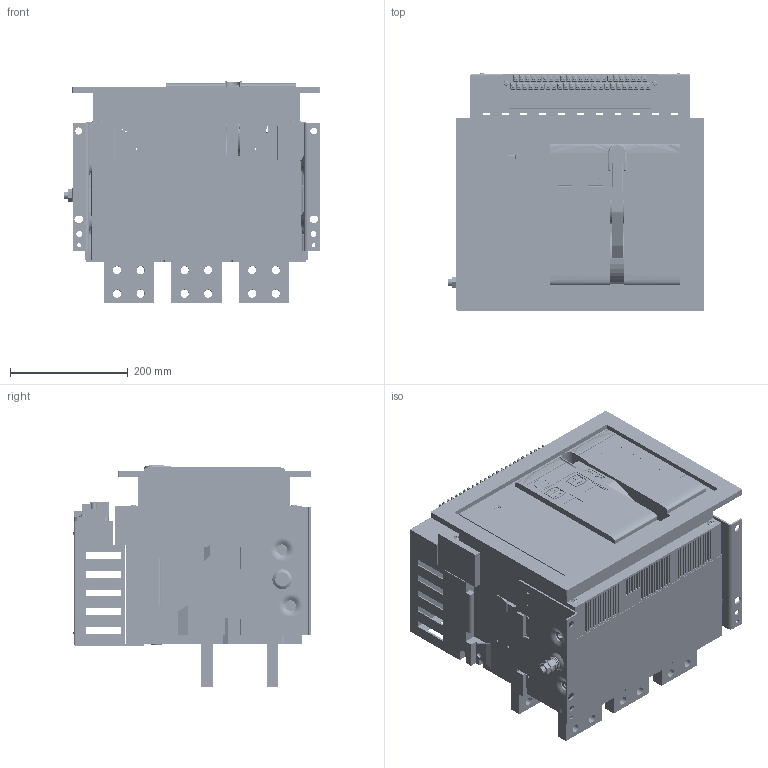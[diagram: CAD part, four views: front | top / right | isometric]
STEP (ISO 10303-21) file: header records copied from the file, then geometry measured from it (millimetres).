
FILE_DESCRIPTION (( 'STEP AP214' ), '1' );
FILE_NAME ('TGW1N-3200 F 3P 2000-2500A.STEP', '2026-06-02T08:55:30', ( '' ), ( '' ), 'SwSTEP 2.0', 'SolidWorks 2024', '' );
FILE_SCHEMA (( 'AUTOMOTIVE_DESIGN' ));
Length unit declared in the file: millimetre
Products named in the file (30): 8TZD_282_1272_AF0_1_1_1_1_1.stP; MANIFOLD_SOLID_BREP_168_1_1_1_1.stP; 8TZD_087_6007.stp; 8TZD_156_6063.stp; 8TZD_860_6288_1_1_1_1_1.stP; MANIFOLD_SOLID_BREP_169_1_1_1_1.stP; 8TZD_253_1322_1_1_1_1_1.stP; MANIFOLD_SOLID_BREP_170_1_1_1_1.stP; ASM0001_ASM_1_ASM_1_ASM_1_ASM.stP; 111111111_2_1_1_1_1.stP; 8TZD_253_1324_1_1_1_1_1.stP; 3200ZHAOKE_ASM_2_1_ASM_1_ASM_1__ASM.stP; 8TZD_321_1011_1_1_1_1_1.stP; MANIFOLD_SOLID_BREP_167_1_1_1_1.stP; MANIFOLD_SOLID_BREP_165_1_1_1_1.stP; 8TZD_282_1271_AF1_1_1_1_1_1.stP; 5TZD_005_6016_ASM_1_1_ASM_1_ASM_ASM.stP; 3200A3P-GDSP_ASM_1_ASM_1_1_ASM__ASM.stP; GB_T9074_4-M6X80_4_1_1_1.stP; BOJ3B645A41J6GW_ASM_1_ASM_1_ASM_ASM.stP; 3200A3P-GDSP_ASM_1_ASM_1_ASM_1__ASM.stP; 8TZD_235_1114_1_1_1_1_1.stP; TENGEN_Рамка_3200-6300_Fixed; 2000SB_1_1_1_1_1.stP; TENGEN_Рамка_3200-6300_Fixed.stp; TGW1N-3200 F 3P 2000-2500A; MANIFOLD_SOLID_BREP_171_1_1_1_1.stP; 8TZD_005_6110_1_1_1_1_1.stP; 8TZD_282_1271_AF0_1_1_1_1_1.stP; 8TZD_253_1325_1_1_1_1_1.stP
Assembly tree (32 placements, depth 6):
  TGW1N-3200 F 3P 2000-2500A
    TENGEN_Рамка_3200-6300_Fixed
      TENGEN_Рамка_3200-6300_Fixed.stp
        8TZD_087_6007.stp
        8TZD_156_6063.stp
    3200A3P-GDSP_ASM_1_ASM_1_1_ASM__ASM.stP
      3200A3P-GDSP_ASM_1_ASM_1_ASM_1__ASM.stP
        BOJ3B645A41J6GW_ASM_1_ASM_1_ASM_ASM.stP
          MANIFOLD_SOLID_BREP_165_1_1_1_1.stP
          MANIFOLD_SOLID_BREP_167_1_1_1_1.stP
          MANIFOLD_SOLID_BREP_168_1_1_1_1.stP
          MANIFOLD_SOLID_BREP_169_1_1_1_1.stP
          MANIFOLD_SOLID_BREP_170_1_1_1_1.stP
          MANIFOLD_SOLID_BREP_171_1_1_1_1.stP
      ASM0001_ASM_1_ASM_1_ASM_1_ASM.stP
        3200ZHAOKE_ASM_2_1_ASM_1_ASM_1__ASM.stP
          5TZD_005_6016_ASM_1_1_ASM_1_ASM_ASM.stP
            8TZD_005_6110_1_1_1_1_1.stP
            8TZD_253_1322_1_1_1_1_1.stP
            8TZD_282_1272_AF0_1_1_1_1_1.stP
            8TZD_235_1114_1_1_1_1_1.stP
            8TZD_321_1011_1_1_1_1_1.stP
            8TZD_282_1271_AF0_1_1_1_1_1.stP
            8TZD_282_1271_AF1_1_1_1_1_1.stP
            8TZD_253_1324_1_1_1_1_1.stP
            8TZD_253_1325_1_1_1_1_1.stP
            8TZD_860_6288_1_1_1_1_1.stP
          111111111_2_1_1_1_1.stP
          2000SB_1_1_1_1_1.stP
      GB_T9074_4-M6X80_4_1_1_1.stP  x4
Bounding box: 436.9 x 404 x 376.5 mm (x, y, z)
Volume: 21131665.2 mm3; surface area: 2237874.4 mm2
Topology: 20 solids, 28 shells, 5881 faces, 16055 edges, 10188 vertices
Faces by surface type: plane 3823, cylinder 1371, bspline 409, cone 115, torus 93, sphere 70
Entity records: 252372 total; most frequent: CARTESIAN_POINT 108311, ORIENTED_EDGE 31054, DIRECTION 28100, EDGE_CURVE 15529, VECTOR 10530, LINE 10530, VERTEX_POINT 10020, AXIS2_PLACEMENT_3D 8785
